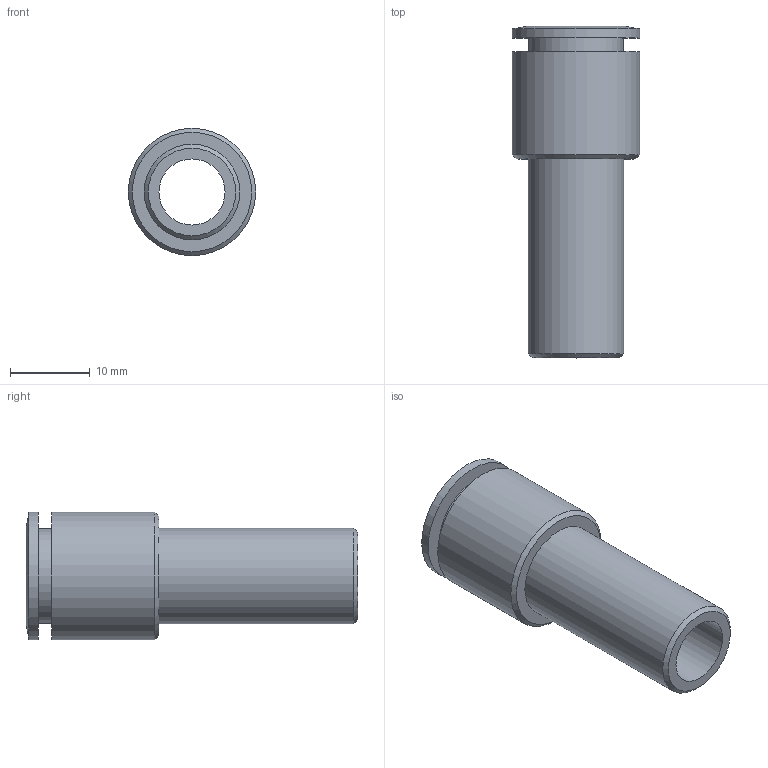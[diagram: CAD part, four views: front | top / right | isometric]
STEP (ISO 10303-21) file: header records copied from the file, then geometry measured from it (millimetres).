
FILE_DESCRIPTION((''),'2;1');
FILE_NAME('C:\Documents and Settings\rivolro1\Documenti\copia di Raccordi\PLASTICA\T08XXXX\T081210.stp','2007-10-30T17:05:35',('Rivolro1'),(''),'Autodesk Inventor 2008','Autodesk Inventor 2008','');
FILE_SCHEMA(('AUTOMOTIVE_DESIGN { 1 0 10303 214 1 1 1 1 }'));
Length unit declared in the file: millimetre
Products named in the file (1): T081210
Bounding box: 16 x 41.7 x 16 mm (x, y, z)
Volume: 3176.9 mm3; surface area: 3401.1 mm2
Topology: 1 solids, 1 shells, 15 faces, 24 edges, 15 vertices
Faces by surface type: plane 5, cylinder 5, cone 3, bspline 2
Full cylindrical faces by diameter (mm): 8.3 x1, 11.9 x1, 12 x1, 16 x2
Entity records: 363 total; most frequent: CARTESIAN_POINT 66, DIRECTION 58, ORIENTED_EDGE 30, EDGE_LOOP 30, AXIS2_PLACEMENT_3D 29, VERTEX_POINT 15, CIRCLE 15, EDGE_CURVE 15
